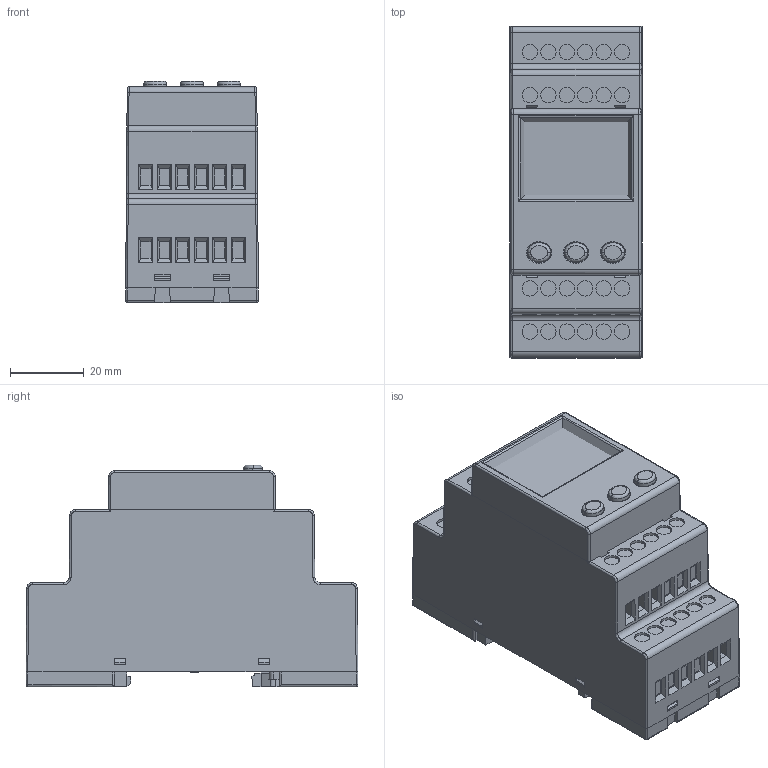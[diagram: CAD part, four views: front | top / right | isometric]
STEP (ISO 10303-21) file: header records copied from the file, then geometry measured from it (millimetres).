
FILE_DESCRIPTION (( 'STEP AP214' ), '1' );
FILE_NAME ('MRM11_MRM11R.STEP', '2024-04-11T06:34:37', ( '' ), ( '' ), 'SwSTEP 2.0', 'SolidWorks 2022', '' );
FILE_SCHEMA (( 'AUTOMOTIVE_DESIGN' ));
Length unit declared in the file: millimetre
Products named in the file (1): MRM11_MRM11R
Bounding box: 36 x 90 x 60 mm (x, y, z)
Volume: 132366.8 mm3; surface area: 35422.3 mm2
Topology: 1 solids, 5 shells, 1037 faces, 2721 edges, 1743 vertices
Faces by surface type: plane 751, bspline 132, cylinder 117, cone 27, torus 6, sphere 4
Entity records: 39629 total; most frequent: CARTESIAN_POINT 14863, ORIENTED_EDGE 5442, DIRECTION 4411, EDGE_CURVE 2721, VECTOR 2139, LINE 2139, VERTEX_POINT 1743, EDGE_LOOP 1140
